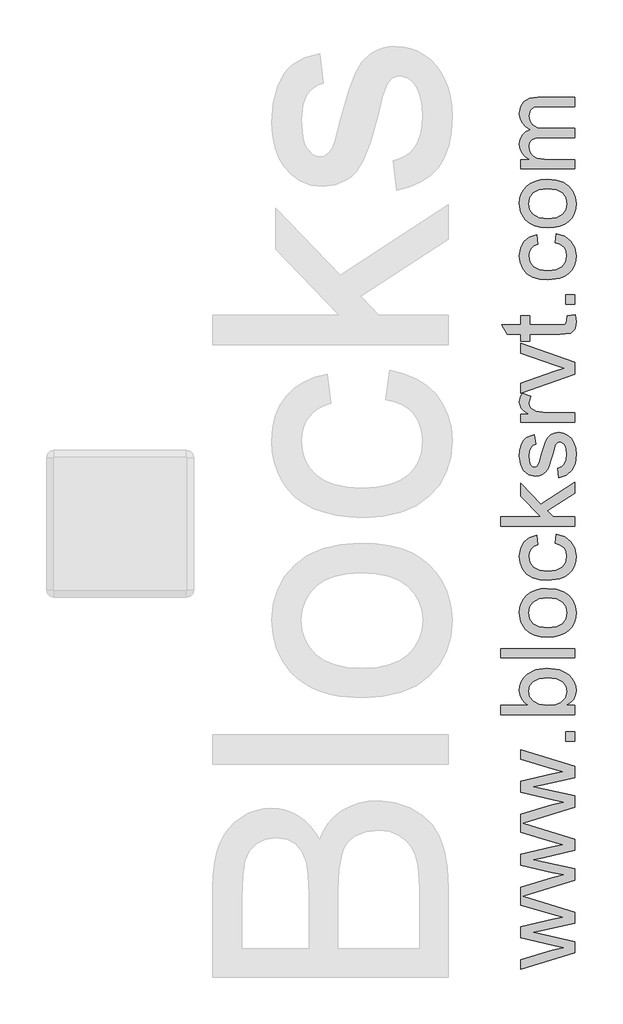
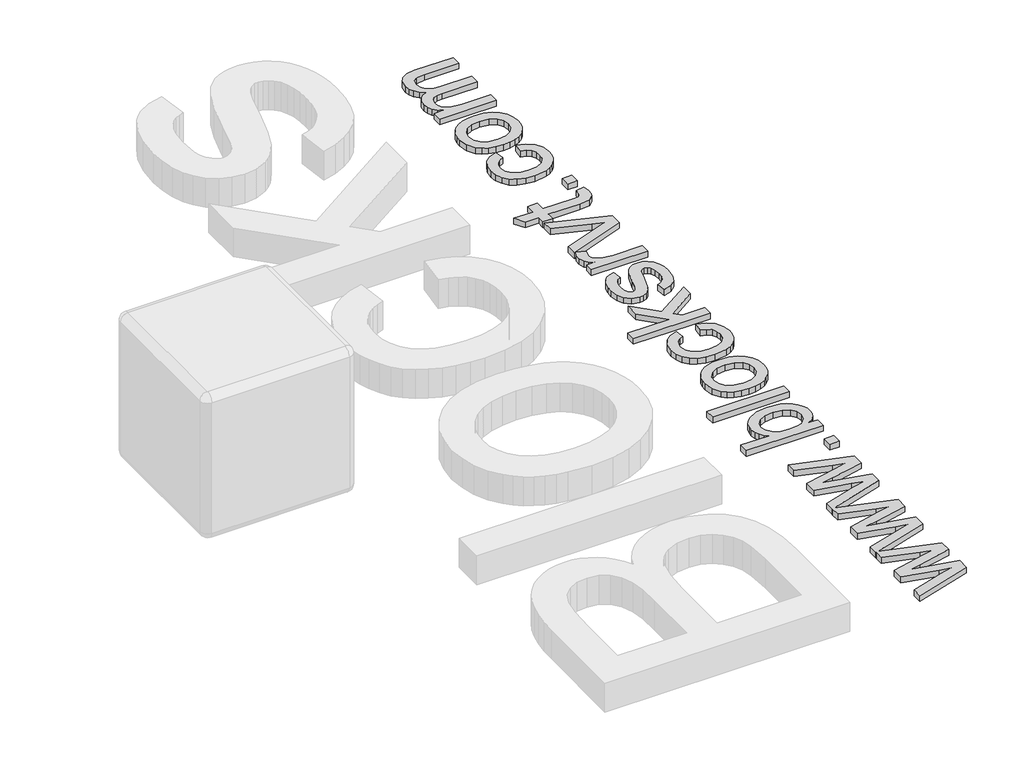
# One storey, part 21 of 21: 1 proxy.
"""IFC4 building model written with IfcOpenShell, lengths in millimetres."""

from ifc_helpers import new_model, si_unit, origin, origin_with_axes, place, context, project, spatial, polyline, outline, extrude, element, save

model = new_model("IFC4")

# Units and contexts
model_context = context("Model", 3, world=origin())
ifc_project = project(units=[si_unit("LENGTHUNIT", "METRE", prefix="MILLI")], contexts=[model_context])

# Site, building, storey
site = spatial("IfcSite", under=ifc_project)
building = spatial("IfcBuilding", under=site)
storey = spatial("IfcBuildingStorey", under=building, Name="PORTOBELLO - SHOWROOM", Elevation=0.0)

# Proxy
placement = place(None, origin())
element("IfcBuildingElementProxy", 1, Name="25mm Arial", ObjectType="25mm Arial", at=placement, inside=storey, context=model_context, shape_type="SweptSolid", body=[
    extrude(outline(polyline([(36978.9669276, 38290.5831109), (36800.9469451, 38236.194692), (36978.9669276, 38181.6287266), (36978.9669276, 38143.7368811), (36870.809621, 38119.5792968), (36837.0871048, 38112.5895389), (36978.9669276, 38081.5035103), (36978.9669276, 38043.3664101), (36800.9469451, 37988.9779913), (36978.9669276, 37934.4120259), (36978.9669276, 37896.5201804), (36870.809621, 37872.362596), (36837.0871048, 37865.3728381), (36978.9669276, 37834.2868095), (36978.9669276, 37796.1497094), (36794.5354207, 37739.8024504), (36794.5354207, 37772.360007), (36902.1409042, 37804.2431132), (36940.5845727, 37813.7467315), (36903.5511186, 37821.533567), (36794.5354207, 37846.856111), (36794.5354207, 37884.1348199), (36903.2445502, 37909.4573639), (36936.7831255, 37916.3858081), (36901.4051403, 37926.318622), (36794.5354207, 37958.2017282), (36794.5354207, 37987.0191512), (36794.5354207, 37990.9432258), (36794.5354207, 38019.5767078), (36902.1409042, 38051.459814), (36940.5845727, 38060.9634322), (36903.5511186, 38068.7502678), (36794.5354207, 38094.0728118), (36794.5354207, 38131.3515206), (36903.2445502, 38156.6740646), (36936.7831255, 38163.6025089), (36901.4051403, 38173.5353227), (36794.5354207, 38205.418429), (36794.5354207, 38234.2358519), (36794.5354207, 38238.1599266), (36794.5354207, 38266.7934085), (36902.1409042, 38298.6765148), (36940.5845727, 38308.180133), (36903.5511186, 38315.9669685), (36794.5354207, 38341.2895125), (36794.5354207, 38378.5682214), (36903.2445502, 38403.8907654), (36936.7831255, 38410.8192096), (36901.4051403, 38420.7520235), (36794.5354207, 38452.6351297), (36794.5354207, 38485.3766273), (36978.9669276, 38428.8454274), (36978.9669276, 38390.9535819), (36870.809621, 38366.7959975), (36837.0871048, 38359.8062396), (36978.9669276, 38328.720211), (36978.9669276, 38290.5831109)])), origin_with_axes(), (0.0, 0.0, 1.0), 20.0),
    extrude(outline(polyline([(36978.9669276, 38514.8071869), (36947.5743307, 38514.8071869), (36947.5743307, 38546.1997839), (36978.9669276, 38546.1997839), (36978.9669276, 38514.8071869)])), origin_with_axes(), (0.0, 0.0, 1.0), 20.0),
    extrude(outline(polyline([(36978.9669276, 38636.4535), (36978.9669276, 38605.0609031), (36727.8261522, 38605.0609031), (36727.8261522, 38636.4535), (36820.9616106, 38636.4535), (36807.6833699, 38646.7771885), (36798.1989122, 38658.4344492), (36792.5082376, 38671.4252822), (36790.611346, 38685.7496874), (36792.3204645, 38701.9211667), (36797.4478198, 38717.2035979), (36805.6715152, 38730.7232613), (36816.669654, 38741.606437), (36846.5600661, 38756.5976283), (36883.9920592, 38762.0238877), (36925.8999498, 38756.4060231), (36942.8301858, 38749.3836923), (36957.0779489, 38739.5524292), (36968.3711597, 38727.7514645), (36976.4377389, 38714.8200292), (36981.2776864, 38700.7581231), (36982.8910022, 38685.5657464), (36980.8101697, 38670.7699924), (36974.567672, 38657.6527), (36964.1635094, 38646.2138692), (36949.5976816, 38636.4535), (36978.9669276, 38636.4535)]), holes=[polyline([(36885.4635871, 38636.4535), (36911.6445225, 38638.5994783), (36929.3641719, 38645.0374132), (36945.9648469, 38661.4848041), (36951.4984053, 38682.8679451), (36947.4210465, 38700.9861333), (36935.1889701, 38716.467834), (36914.8788183, 38727.0904266), (36886.5672331, 38730.6312908), (36857.8417807, 38727.2360465), (36837.7615551, 38717.0503138), (36825.943346, 38702.0514583), (36822.003943, 38684.2168457), (36826.0813017, 38666.0986574), (36838.3133781, 38650.6169568), (36858.2556479, 38639.9943642), (36885.4635871, 38636.4535)])]), origin_with_axes(), (0.0, 0.0, 1.0), 20.0),
    extrude(outline(polyline([(36978.9669276, 38797.3405592), (36727.8261522, 38797.3405592), (36727.8261522, 38828.7331561), (36978.9669276, 38828.7331561), (36978.9669276, 38797.3405592)])), origin_with_axes(), (0.0, 0.0, 1.0), 20.0),
    extrude(outline(polyline([(36886.7511741, 38867.9739023), (36862.8656692, 38869.6715244), (36842.2834379, 38874.7643908), (36825.0044805, 38883.2525014), (36811.0287968, 38895.1358563), (36795.7157087, 38920.3051161), (36790.611346, 38950.4407829), (36792.1652643, 38967.7599774), (36796.8270189, 38983.4198709), (36804.59661, 38997.4204633), (36815.4740376, 39009.7617546), (36829.0914195, 39019.8344403), (36845.080874, 39027.0292158), (36863.4424008, 39031.346081), (36884.1760002, 39032.7850361), (36915.8904938, 39030.240519), (36940.0327498, 39022.6069676), (36958.112617, 39010.106644), (36971.6399445, 38992.9618102), (36980.0782378, 38972.5980089), (36982.8910022, 38950.4407829), (36981.3428321, 38932.8686695), (36976.6983219, 38917.063156), (36968.9574716, 38903.0242426), (36958.1202812, 38890.7519292), (36944.3706916, 38880.7865424), (36927.8926439, 38873.668409), (36908.6861381, 38869.397529), (36886.7511741, 38867.9739023)]), holes=[polyline([(36886.6898605, 38899.3664992), (36915.1010804, 38902.9993339), (36935.3422543, 38913.897838), (36947.4593675, 38930.2992436), (36951.4984053, 38950.4407829), (36947.4363749, 38970.4903516), (36935.2502838, 38986.8611004), (36914.7408626, 38997.7596045), (36885.7088418, 39001.3924392), (36858.1253564, 38997.7366119), (36838.1600939, 38986.7691299), (36826.0429807, 38970.3753885), (36822.003943, 38950.4407829), (36826.0276523, 38930.2992436), (36838.0987803, 38913.897838), (36858.2939689, 38902.9993339), (36886.6898605, 38899.3664992)])]), origin_with_axes(), (0.0, 0.0, 1.0), 20.0),
    extrude(outline(polyline([(36912.2576591, 39185.8239461), (36916.1817337, 39217.2165431), (36944.1024443, 39208.4640173), (36965.2020096, 39192.0166264), (36978.468754, 39169.4225405), (36982.8910022, 39142.2299297), (36981.3485803, 39124.6233273), (36976.7213146, 39108.8369744), (36969.009205, 39094.870871), (36958.2122517, 39082.725017), (36944.533556, 39072.8937539), (36928.1762196, 39065.8714231), (36887.4256244, 39060.2535584), (36859.4895854, 39062.6524556), (36835.2783516, 39069.8491472), (36815.7269564, 39081.9585962), (36801.7704332, 39099.0957658), (36793.4011178, 39119.5975228), (36790.611346, 39141.800734), (36794.4434502, 39168.3265587), (36805.9397625, 39189.5334229), (36824.4871464, 39204.7468763), (36849.4724653, 39213.2924684), (36853.3965399, 39181.8998715), (36839.7005998, 39176.2053648), (36829.882749, 39167.3378759), (36823.9736445, 39155.7879141), (36822.003943, 39142.0459887), (36825.8820323, 39121.7588295), (36837.5163004, 39105.656328), (36857.5352123, 39095.1486985), (36886.5672331, 39091.6461554), (36915.9901285, 39095.0720564), (36936.0780183, 39105.3497597), (36947.6433085, 39121.1610213), (36951.4984053, 39141.1875974), (36949.0918439, 39157.443383), (36941.8721597, 39170.7714412), (36929.6554118, 39180.4666646), (36912.2576591, 39185.8239461)])), origin_with_axes(), (0.0, 0.0, 1.0), 20.0),
    extrude(outline(polyline([(36978.9669276, 39244.6850654), (36727.8261522, 39244.6850654), (36727.8261522, 39276.0776623), (36862.7775308, 39276.0776623), (36794.5354207, 39346.4657507), (36794.5354207, 39389.8758261), (36863.6359221, 39318.5680327), (36978.9669276, 39393.7999007), (36978.9669276, 39357.1343286), (36885.4635871, 39296.0659174), (36904.9000192, 39276.0776623), (36978.9669276, 39276.0776623), (36978.9669276, 39244.6850654)])), origin_with_axes(), (0.0, 0.0, 1.0), 20.0),
    extrude(outline(polyline([(36924.029883, 39409.4961992), (36920.1058083, 39440.8887961), (36933.5335012, 39445.8398746), (36943.4050014, 39455.4201349), (36949.4750543, 39469.6908907), (36951.4984053, 39488.7134555), (36949.6436669, 39507.5060941), (36944.0794517, 39520.7191891), (36936.0167046, 39528.5366815), (36926.6663706, 39531.1425123), (36918.6649372, 39528.5213531), (36912.5642274, 39520.6578754), (36903.6124322, 39488.3455735), (36888.2533589, 39441.0727371), (36880.5355012, 39429.1089081), (36870.3191117, 39420.4406886), (36858.2556479, 39415.1753775), (36844.9965677, 39413.4202738), (36821.6054041, 39419.0611311), (36803.7324705, 39434.4508612), (36794.4434502, 39454.4084594), (36790.611346, 39481.4171293), (36792.1518519, 39501.8499084), (36796.7733695, 39519.6155431), (36804.0237105, 39533.9016272), (36813.4506866, 39543.8957548), (36825.7517408, 39550.5176307), (36841.624316, 39554.68696), (36845.5483907, 39523.294363), (36835.6692262, 39519.3319674), (36828.2272801, 39511.4914824), (36823.5597772, 39499.6962659), (36822.003943, 39483.8696759), (36823.4907994, 39465.8434581), (36827.9513686, 39453.8259796), (36834.3893035, 39447.066148), (36841.808257, 39444.8128707), (36850.9439933, 39448.5530044), (36857.8724375, 39460.2639145), (36864.5556271, 39487.3032412), (36879.3322205, 39533.3804611), (36886.3986205, 39545.5512238), (36896.0708513, 39554.7789305), (36908.3795697, 39560.5960645), (36923.3554326, 39562.5351092), (36938.8371333, 39560.2588393), (36953.3991289, 39553.4300298), (36965.8994525, 39542.3092637), (36975.1961371, 39527.157124), (36980.9672859, 39508.8549947), (36982.8910022, 39488.2842598), (36979.1815254, 39456.6310798), (36968.0530951, 39433.5311562), (36949.6283385, 39418.1107693), (36924.029883, 39409.4961992)])), origin_with_axes(), (0.0, 0.0, 1.0), 20.0),
    extrude(outline(polyline([(36978.9669276, 39760.9461319), (36794.5354207, 39695.9536461), (36794.5354207, 39729.1243393), (36905.0226465, 39768.4877128), (36942.1787281, 39780.3212503), (36907.1073112, 39791.9095332), (36794.5354207, 39831.4568477), (36794.5354207, 39864.6888546), (36978.9669276, 39800.6160737), (36978.9669276, 39760.9461319)])), origin_with_axes(), (0.0, 0.0, 1.0), 20.0),
    extrude(outline(polyline([(36978.9669276, 39597.8517807), (36794.5354207, 39597.8517807), (36794.5354207, 39625.320303), (36821.820002, 39625.320303), (36806.0010762, 39635.4677147), (36796.681399, 39644.8180488), (36790.611346, 39664.4384219), (36793.0332358, 39680.0734067), (36800.2989052, 39695.9536461), (36828.4418779, 39685.4690092), (36822.003943, 39663.3960895), (36823.552113, 39654.0227629), (36828.1966232, 39645.6457833), (36845.3644497, 39634.3334119), (36882.0300218, 39629.2443777), (36978.9669276, 39629.2443777), (36978.9669276, 39597.8517807)])), origin_with_axes(), (0.0, 0.0, 1.0), 20.0),
    extrude(outline(polyline([(36952.7859923, 39958.8666453), (36979.8866326, 39962.7907199), (36982.8910022, 39939.3075859), (36981.5880868, 39924.2397525), (36977.6793406, 39913.0040233), (36964.0063931, 39899.8828988), (36928.3831532, 39896.0814515), (36825.9280176, 39896.0814515), (36825.9280176, 39872.5370038), (36794.5354207, 39872.5370038), (36794.5354207, 39896.0814515), (36749.7151309, 39896.0814515), (36731.2597175, 39927.4740484), (36794.5354207, 39927.4740484), (36794.5354207, 39958.8666453), (36825.9280176, 39958.8666453), (36825.9280176, 39927.4740484), (36927.4634482, 39927.4740484), (36943.650256, 39929.1295174), (36949.3830838, 39934.4944632), (36951.4984053, 39945.1936978), (36952.7859923, 39958.8666453)])), origin_with_axes(), (0.0, 0.0, 1.0), 20.0),
    extrude(outline(polyline([(36978.9669276, 39998.1073915), (36947.5743307, 39998.1073915), (36947.5743307, 40029.4999884), (36978.9669276, 40029.4999884), (36978.9669276, 39998.1073915)])), origin_with_axes(), (0.0, 0.0, 1.0), 20.0),
    extrude(outline(polyline([(36912.2576591, 40206.0833461), (36916.1817337, 40237.475943), (36944.1024443, 40228.7234172), (36965.2020096, 40212.2760263), (36978.468754, 40189.6819405), (36982.8910022, 40162.4893297), (36981.3485803, 40144.8827273), (36976.7213146, 40129.0963744), (36969.009205, 40115.1302709), (36958.2122517, 40102.9844169), (36944.533556, 40093.1531538), (36928.1762196, 40086.130823), (36887.4256244, 40080.5129584), (36859.4895854, 40082.9118556), (36835.2783516, 40090.1085471), (36815.7269564, 40102.2179961), (36801.7704332, 40119.3551657), (36793.4011178, 40139.8569228), (36790.611346, 40162.060134), (36794.4434502, 40188.5859587), (36805.9397625, 40209.7928229), (36824.4871464, 40225.0062762), (36849.4724653, 40233.5518684), (36853.3965399, 40202.1592715), (36839.7005998, 40196.4647648), (36829.882749, 40187.5972758), (36823.9736445, 40176.047314), (36822.003943, 40162.3053887), (36825.8820323, 40142.0182295), (36837.5163004, 40125.915728), (36857.5352123, 40115.4080985), (36886.5672331, 40111.9055553), (36915.9901285, 40115.3314564), (36936.0780183, 40125.6091596), (36947.6433085, 40141.4204212), (36951.4984053, 40161.4469973), (36949.0918439, 40177.702783), (36941.8721597, 40191.0308411), (36929.6554118, 40200.7260645), (36912.2576591, 40206.0833461)])), origin_with_axes(), (0.0, 0.0, 1.0), 20.0),
    extrude(outline(polyline([(36886.7511741, 40257.0963161), (36862.8656692, 40258.7939382), (36842.2834379, 40263.8868046), (36825.0044805, 40272.3749152), (36811.0287968, 40284.2582701), (36795.7157087, 40309.4275299), (36790.611346, 40339.5631967), (36792.1652643, 40356.8823912), (36796.8270189, 40372.5422847), (36804.59661, 40386.5428771), (36815.4740376, 40398.8841684), (36829.0914195, 40408.9568541), (36845.080874, 40416.1516295), (36863.4424008, 40420.4684948), (36884.1760002, 40421.9074499), (36915.8904938, 40419.3629328), (36940.0327498, 40411.7293814), (36958.112617, 40399.2290578), (36971.6399445, 40382.0842239), (36980.0782378, 40361.7204227), (36982.8910022, 40339.5631967), (36981.3428321, 40321.9910832), (36976.6983219, 40306.1855698), (36968.9574716, 40292.1466564), (36958.1202812, 40279.874343), (36944.3706916, 40269.9089562), (36927.8926439, 40262.7908228), (36908.6861381, 40258.5199428), (36886.7511741, 40257.0963161)]), holes=[polyline([(36886.6898605, 40288.488913), (36915.1010804, 40292.1217477), (36935.3422543, 40303.0202518), (36947.4593675, 40319.4216574), (36951.4984053, 40339.5631967), (36947.4363749, 40359.6127654), (36935.2502838, 40375.9835142), (36914.7408626, 40386.8820183), (36885.7088418, 40390.514853), (36858.1253564, 40386.8590257), (36838.1600939, 40375.8915437), (36826.0429807, 40359.4978023), (36822.003943, 40339.5631967), (36826.0276523, 40319.4216574), (36838.0987803, 40303.0202518), (36858.2939689, 40292.1217477), (36886.6898605, 40288.488913)])]), origin_with_axes(), (0.0, 0.0, 1.0), 20.0),
    extrude(outline(polyline([(36978.9669276, 40457.2241215), (36794.5354207, 40457.2241215), (36794.5354207, 40488.6167184), (36824.8856853, 40488.6167184), (36810.9444905, 40498.0590229), (36800.0229938, 40510.1991288), (36792.964258, 40524.6231687), (36790.611346, 40540.9172754), (36793.0102432, 40558.3763417), (36800.2069348, 40572.371186), (36811.7262397, 40582.825166), (36827.0929772, 40589.6616397), (36811.1322636, 40601.1043026), (36799.7317538, 40614.1564492), (36792.891448, 40628.8180796), (36790.611346, 40645.0891937), (36794.4051291, 40668.6872908), (36805.7864783, 40686.138693), (36825.0619621, 40696.9222339), (36852.5381486, 40700.5167476), (36978.9669276, 40700.5167476), (36978.9669276, 40669.1241507), (36866.0271551, 40669.1241507), (36839.8155629, 40666.2117516), (36826.9090362, 40655.665801), (36822.003943, 40637.7315538), (36825.1462683, 40620.7246757), (36834.5732445, 40606.860123), (36850.9286648, 40597.6400805), (36874.8563229, 40594.566733), (36978.9669276, 40594.566733), (36978.9669276, 40563.1741361), (36862.5322761, 40563.1741361), (36844.7819698, 40561.3577187), (36832.1206978, 40555.9084667), (36824.5331317, 40546.3205422), (36822.003943, 40532.0881075), (36823.6900688, 40519.9939869), (36828.7484462, 40508.8502281), (36837.0564479, 40499.6531782), (36848.4914466, 40493.3991843), (36885.9540965, 40488.6167184), (36978.9669276, 40488.6167184), (36978.9669276, 40457.2241215)])), origin_with_axes(), (0.0, 0.0, 1.0), 20.0),
])

save(model, "model.ifc")
